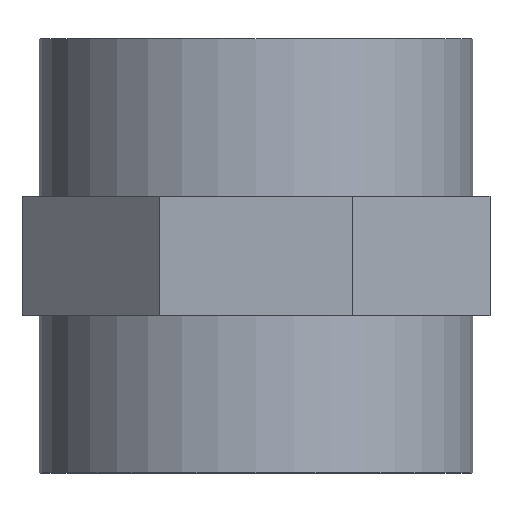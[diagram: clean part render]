
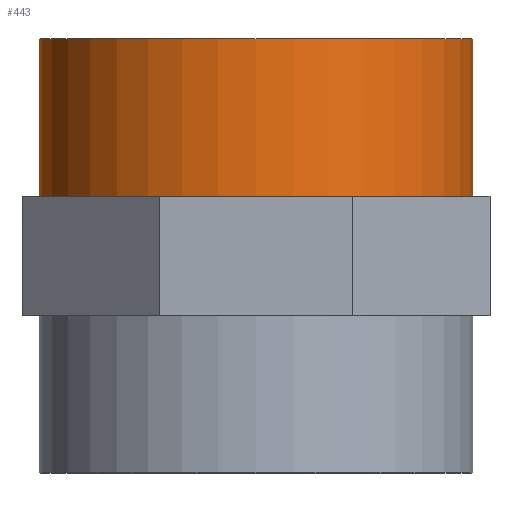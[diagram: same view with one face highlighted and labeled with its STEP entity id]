
A CAD part, top view. The second image highlights one B-rep face of the part: STEP entity #443.
In plain terms, the highlighted cylindrical face has radius 25.5 mm (diameter 51 mm), a full revolution.
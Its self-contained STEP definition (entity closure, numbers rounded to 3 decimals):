
#74=CYLINDRICAL_SURFACE('',#466,25.5);
#81=FACE_BOUND('',#147,.T.);
#88=CIRCLE('',#457,25.5);
#89=CIRCLE('',#467,25.5);
#114=FACE_OUTER_BOUND('',#146,.T.);
#146=EDGE_LOOP('',(#390));
#147=EDGE_LOOP('',(#391));
#223=VERTEX_POINT('',#8112);
#224=VERTEX_POINT('',#8131);
#275=EDGE_CURVE('',#223,#223,#88,.T.);
#284=EDGE_CURVE('',#224,#224,#89,.T.);
#390=ORIENTED_EDGE('',*,*,#284,.F.);
#391=ORIENTED_EDGE('',*,*,#275,.T.);
#443=ADVANCED_FACE('',(#114,#81),#74,.T.);
#457=AXIS2_PLACEMENT_3D('',#8113,#506,#507);
#466=AXIS2_PLACEMENT_3D('',#8130,#532,#533);
#467=AXIS2_PLACEMENT_3D('',#8132,#534,#535);
#506=DIRECTION('center_axis',(0.,1.,0.));
#507=DIRECTION('ref_axis',(1.,0.,0.));
#532=DIRECTION('center_axis',(0.,1.,0.));
#533=DIRECTION('ref_axis',(1.,0.,0.));
#534=DIRECTION('center_axis',(0.,1.,0.));
#535=DIRECTION('ref_axis',(1.,0.,0.));
#8112=CARTESIAN_POINT('',(-25.5,7.,0.));
#8113=CARTESIAN_POINT('Origin',(0.,7.,0.));
#8130=CARTESIAN_POINT('Origin',(0.,0.,0.));
#8131=CARTESIAN_POINT('',(-25.5,25.5,0.));
#8132=CARTESIAN_POINT('Origin',(0.,25.5,0.));
